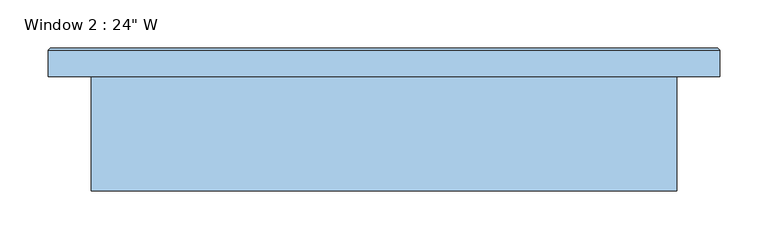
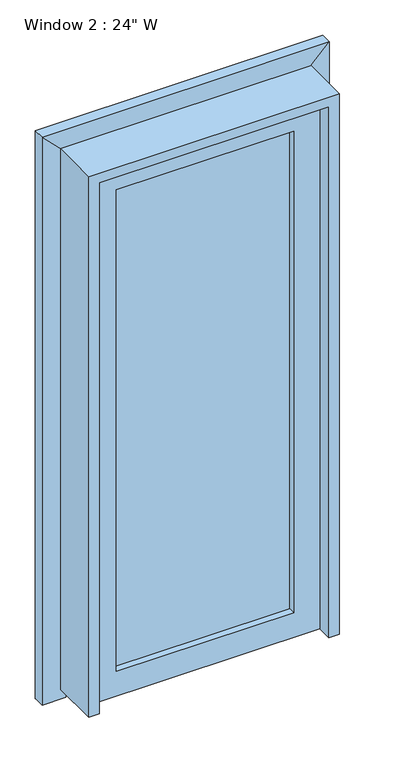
"""IFC4 building model written with IfcOpenShell, lengths in millimetres: window geometry."""

import ifcopenshell
import ifcopenshell.guid

model = None  # the IFC model being written
_history = None  # IfcOwnerHistory: only IFC2X3 demands one
_inside = {}  # id of a spatial element -> (the spatial element, [elements in it])
_under = {}  # id of a project, library or spatial element -> (it, [spatial elements below it])
_declared = {}  # id of a project -> (the project, [libraries it declares])
_typed = {}  # id of a type object -> (the type object, [elements of that type])
_made_of = {}  # id of a material, layer set ... -> (it, [elements and type objects made of it])


def new_model(schema):
    """Start an empty IFC model of exactly this schema.

    Asked for "IFC4X3", IfcOpenShell would pick the latest addendum, in which some entities
    have other attributes; the version numbers below select the first issue.
    IFC2X3 requires an IfcOwnerHistory on every rooted entity: one is made here for all.
    """
    global model, _history
    if schema == "IFC4X3":
        model = ifcopenshell.file(schema_version=(4, 3, 0, 0))
    else:
        model = ifcopenshell.file(schema=schema)
    _inside.clear()
    _under.clear()
    _declared.clear()
    _typed.clear()
    _made_of.clear()
    _history = None
    if model.schema == "IFC2X3":
        org = make("IfcOrganization", Name="unknown")
        user = make(
            "IfcPersonAndOrganization",
            ThePerson=make("IfcPerson", FamilyName="unknown"),
            TheOrganization=org,
        )
        app = make(
            "IfcApplication",
            ApplicationDeveloper=org,
            Version="unknown",
            ApplicationFullName="unknown",
            ApplicationIdentifier="unknown",
        )
        _history = make(
            "IfcOwnerHistory",
            OwningUser=user,
            OwningApplication=app,
            ChangeAction="ADDED",
            CreationDate=0,
        )
    return model


def make(cls, **values):
    """One entity of the class cls with the attributes given. An attribute that is None is left unset."""
    return model.create_entity(
        cls, **{name: value for name, value in values.items() if value is not None}
    )


def rooted(cls, **values):
    """An entity with a GlobalId (a new one), such as an element, a storey or a relation."""
    return make(cls, GlobalId=ifcopenshell.guid.new(), OwnerHistory=_history, **values)


def si_unit(unit_type, name, prefix=None):
    """IfcSIUnit, for example si_unit("LENGTHUNIT", "METRE", prefix="MILLI")."""
    return make("IfcSIUnit", UnitType=unit_type, Prefix=prefix, Name=name)


def assignment(units):
    """IfcUnitAssignment: the units of a project."""
    return None if units is None else make("IfcUnitAssignment", Units=units)


def point(xyz):
    """IfcCartesianPoint."""
    return None if xyz is None else make("IfcCartesianPoint", Coordinates=xyz)


def direction(xyz):
    """IfcDirection."""
    return None if xyz is None else make("IfcDirection", DirectionRatios=xyz)


def frame(location, z_axis=None, x_axis=None):
    """IfcAxis2Placement3D, a coordinate frame: its origin and axes. An axis left out is left unset."""
    return make(
        "IfcAxis2Placement3D",
        Location=point(location),
        Axis=direction(z_axis),
        RefDirection=direction(x_axis),
    )


def origin():
    """The frame at (0, 0, 0) with its axes left unset."""
    return frame((0.0, 0.0, 0.0))


def place(relative_to, where):
    """IfcLocalPlacement: puts the frame where relative to a parent placement (None: the world)."""
    return make(
        "IfcLocalPlacement", PlacementRelTo=relative_to, RelativePlacement=where
    )


def context(
    kind, dimensions, precision=None, world=None, true_north=None, identifier=None
):
    """IfcGeometricRepresentationContext, for example the 3D "Model" context."""
    return make(
        "IfcGeometricRepresentationContext",
        ContextIdentifier=identifier,
        ContextType=kind,
        CoordinateSpaceDimension=dimensions,
        Precision=precision,
        WorldCoordinateSystem=world,
        TrueNorth=true_north,
    )


def project(units=None, contexts=None):
    """IfcProject with its units and contexts."""
    return rooted(
        "IfcProject",
        Name="project",
        RepresentationContexts=contexts,
        UnitsInContext=assignment(units),
    )


def spatial(cls, under=None, at=None, **own):
    """A site, building, storey or space (cls), placed at a placement, below another one or the project."""
    s = rooted(cls, ObjectPlacement=at, **own)
    if under is not None:
        _under.setdefault(under.id(), (under, []))[1].append(s)
    return s


def polyline(points):
    """IfcPolyline through the points."""
    return make("IfcPolyline", Points=[point(p) for p in points])


def outline(outer, holes=None, kind="AREA"):
    """IfcArbitraryClosedProfileDef: a profile drawn as a closed curve; with holes, ...WithVoids."""
    if holes is None:
        return make("IfcArbitraryClosedProfileDef", ProfileType=kind, OuterCurve=outer)
    return make(
        "IfcArbitraryProfileDefWithVoids",
        ProfileType=kind,
        OuterCurve=outer,
        InnerCurves=holes,
    )


def extrude(swept, where, along, depth):
    """IfcExtrudedAreaSolid: the profile swept, set in the frame where, extruded along a direction by depth."""
    return make(
        "IfcExtrudedAreaSolid",
        SweptArea=swept,
        Position=where,
        ExtrudedDirection=direction(along),
        Depth=depth,
    )


def faces_of(points, faces, orient=None, outer=None):
    """IfcFace entities. A face is a list of loops; a loop is a list of indices into points, from 0.

    orient and outer hold one flag for each loop. By default every Orientation is true, the
    first loop of a face is its IfcFaceOuterBound and the others are IfcFaceBound.
    """
    made = []
    for i, loops in enumerate(faces):
        bounds = []
        for j, loop in enumerate(loops):
            is_outer = j == 0 if outer is None else outer[i][j]
            bounds.append(
                make(
                    "IfcFaceOuterBound" if is_outer else "IfcFaceBound",
                    Bound=make("IfcPolyLoop", Polygon=[points[k] for k in loop]),
                    Orientation=True if orient is None else orient[i][j],
                )
            )
        made.append(make("IfcFace", Bounds=bounds))
    return made


def faceted_brep(points, faces, orient=None, outer=None, voids=None):
    """IfcFacetedBrep: a solid bounded by flat faces; with voids (closed shells), ...WithVoids."""
    shared = [point(p) for p in points]
    hull = make("IfcClosedShell", CfsFaces=faces_of(shared, faces, orient, outer))
    if voids is None:
        return make("IfcFacetedBrep", Outer=hull)
    return make(
        "IfcFacetedBrepWithVoids",
        Outer=hull,
        Voids=[
            make(cls, CfsFaces=faces_of(shared, fs, o, b)) for cls, fs, o, b in voids
        ],
    )


def shape(context_of_items, identifier, shape_type, items):
    """IfcShapeRepresentation: the items that make up one representation, for example the "Body"."""
    return make(
        "IfcShapeRepresentation",
        ContextOfItems=context_of_items,
        RepresentationIdentifier=identifier,
        RepresentationType=shape_type,
        Items=items,
    )


def source(mapping_origin, context_of_items, identifier, shape_type, items):
    """IfcRepresentationMap: a shape defined once, which mapped items show again and again."""
    return make(
        "IfcRepresentationMap",
        MappingOrigin=mapping_origin,
        MappedRepresentation=shape(context_of_items, identifier, shape_type, items),
    )


def transform(
    local_origin,
    x_axis=None,
    y_axis=None,
    z_axis=None,
    scale=None,
    scale2=None,
    scale3=None,
    uniform=True,
):
    """IfcCartesianTransformationOperator3D, or its non-uniform kind. x_axis, y_axis, z_axis: its Axis1, 2, 3."""
    if uniform:
        return make(
            "IfcCartesianTransformationOperator3D",
            Axis1=direction(x_axis),
            Axis2=direction(y_axis),
            LocalOrigin=point(local_origin),
            Scale=scale,
            Axis3=direction(z_axis),
        )
    return make(
        "IfcCartesianTransformationOperator3DnonUniform",
        Axis1=direction(x_axis),
        Axis2=direction(y_axis),
        LocalOrigin=point(local_origin),
        Scale=scale,
        Axis3=direction(z_axis),
        Scale2=scale2,
        Scale3=scale3,
    )


def mapped(mapping_source, mapping_target):
    """IfcMappedItem: shows the shape of a source again, moved by a transform."""
    return make(
        "IfcMappedItem", MappingSource=mapping_source, MappingTarget=mapping_target
    )


def made_of(thing, what):
    """Note that an element or type object is made of a material, layer set ...; save() writes the relation."""
    if what is not None:
        _made_of.setdefault(what.id(), (what, []))[1].append(thing)
    return thing


def element(
    cls,
    number,
    at=None,
    inside=None,
    cuts=None,
    type_object=None,
    material=None,
    context=None,
    identifier="Body",
    shape_type=None,
    held_by="IfcProductDefinitionShape",
    body=None,
    shapes=None,
    **own,
):
    """One element of the class cls, such as IfcWall. Its Tag is "e" and its number.

    at: its placement. inside: the storey or other place that contains it. cuts: it is an
    opening in that element (IfcRelVoidsElement). A single representation is given by context,
    identifier, shape_type and body (its items); several are given by shapes. held_by: the class
    of the entity that holds the representations. save() writes the other relations.
    """
    e = rooted(cls, Tag="e%d" % number, ObjectPlacement=at, **own)
    if body is not None:
        shapes = [shape(context, identifier, shape_type, body)]
    if shapes is not None:
        e.Representation = make(held_by, Representations=shapes)
    if inside is not None:
        _inside.setdefault(inside.id(), (inside, []))[1].append(e)
    if cuts is not None:
        rooted(
            "IfcRelVoidsElement", RelatingBuildingElement=cuts, RelatedOpeningElement=e
        )
    if type_object is not None:
        _typed.setdefault(type_object.id(), (type_object, []))[1].append(e)
    return made_of(e, material)


def aggregate(whole, parts):
    """IfcRelAggregates: a whole, such as a stair, and the parts it consists of."""
    return rooted("IfcRelAggregates", RelatingObject=whole, RelatedObjects=parts)


def save(model, path):
    """Write the relations noted so far, then the file.

    IfcRelAggregates (storeys below a building ...), IfcRelContainedInSpatialStructure (elements
    in a storey), IfcRelDefinesByType, IfcRelAssociatesMaterial and IfcRelDeclares: one each for
    every whole, place, type object, material and project.
    """
    for whole, parts in _under.values():
        aggregate(whole, parts)
    for where, things in _inside.values():
        rooted(
            "IfcRelContainedInSpatialStructure",
            RelatedElements=things,
            RelatingStructure=where,
        )
    for kind, things in _typed.values():
        rooted("IfcRelDefinesByType", RelatedObjects=things, RelatingType=kind)
    for what, things in _made_of.values():
        rooted("IfcRelAssociatesMaterial", RelatedObjects=things, RelatingMaterial=what)
    for by, libraries in _declared.values():
        rooted("IfcRelDeclares", RelatingContext=by, RelatedDefinitions=libraries)
    model.write(path)


def window_0248c27b(model_context):
    return source(origin(), model_context, "Body", "SolidModel", [
        faceted_brep([(292.1, 119.0625, 781.05), (294.0950984, 121.0575984, 781.05), (294.345064, 121.307564, 781.05), (319.745064, 121.307564, 781.05), (321.9901281, 123.5526281, 781.05), (347.3901281, 123.5526281, 781.05), (349.6351921, 121.307564, 781.05), (349.6351921, 121.0575984, 781.05), (349.6351921, 93.6625, 781.05), (292.1, 93.6625, 781.05), (292.1, 119.0625, 781.5176691), (292.1, 119.0625, 2184.4), (294.345064, 121.307564, 2186.645064), (319.745064, 121.307564, 2212.045064), (321.9901281, 123.5526281, 2214.2901281), (347.3901281, 123.5526281, 2239.6901281), (349.6351921, 121.307564, 2241.9351921), (349.6351921, 93.6625, 2241.9351921), (349.6351921, 93.6625, 787.4716586), (292.1, 93.6625, 2184.4), (292.1, 93.6625, 787.4716586), (-292.1, 119.0625, 2184.4), (-294.345064, 121.307564, 2186.645064), (-319.745064, 121.307564, 2212.045064), (-321.9901281, 123.5526281, 2214.2901281), (-347.3901281, 123.5526281, 2239.6901281), (-349.6351921, 121.307564, 2241.9351921), (-349.6351921, 93.6625, 2241.9351921), (-292.1, 93.6625, 2184.4), (-292.1, 119.0625, 781.05), (-292.1, 93.6625, 781.05), (-349.6351921, 93.6625, 781.05), (-349.6351921, 121.0575984, 781.05), (-349.6351921, 121.307564, 781.05), (-347.3901281, 123.5526281, 781.05), (-321.9901281, 123.5526281, 781.05), (-319.745064, 121.307564, 781.05), (-294.345064, 121.307564, 781.05), (-294.0950984, 121.0575984, 781.05), (-292.1, 119.0625, 781.5176691), (-349.6351921, 93.6625, 787.4716586), (-292.1, 93.6625, 787.4716586)], [[[0, 1, 2, 3, 4, 5, 6, 7, 8, 9]], [[2, 1, 0, 10, 11, 12]], [[3, 2, 12, 13]], [[4, 3, 13, 14]], [[5, 4, 14, 15]], [[6, 5, 15, 16]], [[8, 7, 6, 16, 17, 18]], [[9, 8, 18, 17, 19, 20]], [[0, 9, 20, 19, 11, 10]], [[12, 11, 21, 22]], [[13, 12, 22, 23]], [[14, 13, 23, 24]], [[15, 14, 24, 25]], [[16, 15, 25, 26]], [[17, 16, 26, 27]], [[19, 17, 27, 28]], [[11, 19, 28, 21]], [[29, 30, 31, 32, 33, 34, 35, 36, 37, 38]], [[22, 21, 39, 29, 38, 37]], [[23, 22, 37, 36]], [[24, 23, 36, 35]], [[25, 24, 35, 34]], [[26, 25, 34, 33]], [[27, 26, 33, 32, 31, 40]], [[28, 27, 40, 31, 30, 41]], [[21, 28, 41, 30, 29, 39]]]),
        extrude(outline(polyline([(215.9, 29.5671875), (-215.9, 29.5671875), (-215.9, 46.434375), (215.9, 46.434375), (215.9, 29.5671875)])), frame((0.0, 0.0, 869.95), z_axis=(0.0, 0.0, 1.0), x_axis=(1.0, 0.0, 0.0)), (0.0, 0.0, 1.0), 1238.25),
        extrude(outline(polyline([(806.45, 279.4), (2171.7, 279.4), (2171.7, -279.4), (806.45, -279.4), (806.45, 279.4)]), holes=[polyline([(869.95, 215.9), (869.95, -215.9), (2108.2, -215.9), (2108.2, 215.9), (869.95, 215.9)])]), frame((0.0, 12.7, 0.0), z_axis=(0.0, 1.0, 0.0), x_axis=(0.0, 0.0, 1.0)), (0.0, 0.0, 1.0), 50.6015625),
        extrude(outline(polyline([(2197.1, -304.8), (806.45, -304.8), (806.45, -279.4), (2171.7, -279.4), (2171.7, 279.4), (806.45, 279.4), (806.45, 304.8), (2197.1, 304.8), (2197.1, -304.8)])), frame((0.0, -25.4, 0.0), z_axis=(0.0, 1.0, 0.0), x_axis=(0.0, 0.0, 1.0)), (0.0, 0.0, 1.0), 119.0625),
    ])


if __name__ == "__main__":
    model = new_model("IFC4")
    model_context = context("Model", 3, world=origin())
    ifc_project = project(units=[si_unit("LENGTHUNIT", "METRE", prefix="MILLI")], contexts=[model_context])
    site = spatial("IfcSite", under=ifc_project)
    building = spatial("IfcBuilding", under=site)
    placement = place(None, origin())
    window_shape = window_0248c27b(model_context)
    element("IfcWindow", 1, ObjectType="Window 2 : 24\" W", at=placement, inside=building, context=model_context, shape_type="MappedRepresentation", body=[
        mapped(window_shape, transform((0.0, 0.0, 0.0), x_axis=(1.0, 0.0, 0.0), y_axis=(0.0, 1.0, 0.0), z_axis=(0.0, 0.0, 1.0))),
    ])
    save(model, "model.ifc")
